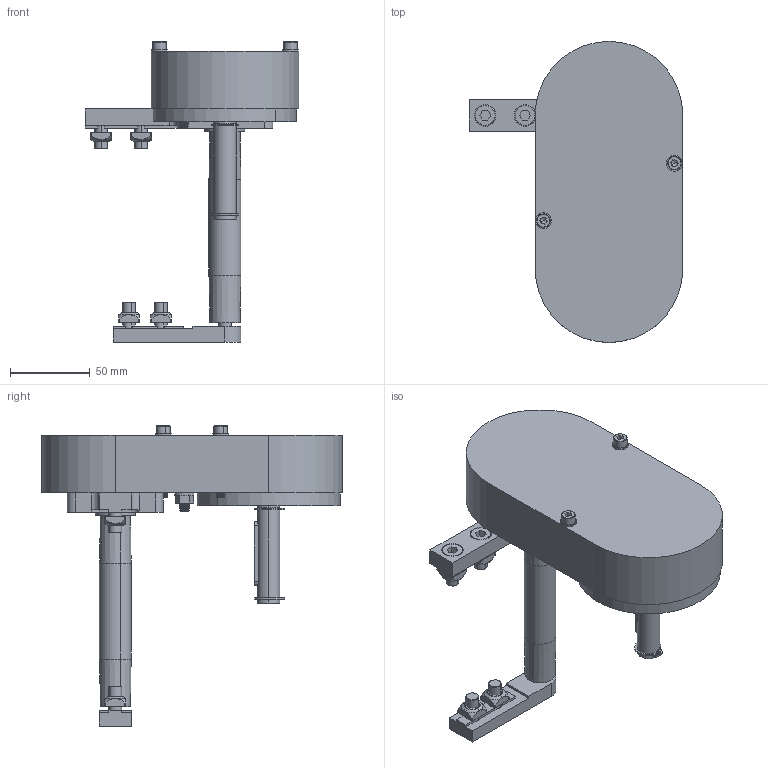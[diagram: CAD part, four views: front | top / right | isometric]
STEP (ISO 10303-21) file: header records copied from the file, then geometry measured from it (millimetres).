
FILE_DESCRIPTION (( 'STEP AP214' ), '1' );
FILE_NAME ('084.020.KT.30.100.STEP', '2018-02-05T13:57:16', ( '' ), ( '' ), 'SwSTEP 2.0', 'SolidWorks 2016', '' );
FILE_SCHEMA (( 'AUTOMOTIVE_DESIGN' ));
Length unit declared in the file: millimetre
Products named in the file (34): 084.802.016_084.802.016; 084.800.013; 084.800.014; CHIAVETTE_A 4x4x15 UNI 6604-69; 084.020.KT.30.100; 084.800.015; 084.800.008; 084.800.016; 084.302.000 DADI ALUSIC 13x13-1_084.302.004; 084.800.029; Hexagon Nut ISO - 4032 -  M6 - D - S_Hexagon Nut ISO - 4032 - M6 - D - S; 084.800.012; ISO 10642 - M5 x 12 --- 12S_ISO 10642 - M5 x 12 --- 12S; socket countersunk head screw_iso_ISO 10642 - M5 x 16 --- 16S; 084.800.003; 084.800.006; 084.301.000 VITI ALUSIC_084.301.003; CHIAVETTE_A 5x5x40 UNI 6604-69; 084.800.007; 084.800.002; 084.800.011; RONDELLE FASCIA LARGA UNI 6593_4.3x16UNI 6593; VITI TCEI UNI 5931_M4x12 UNI 5931; ISO 4762 M6 x 35 ---  24S_ISO 4762 M6 x 35 --- 24S; ISO 4762 M5 x 40 --- 22S_ISO 4762 M5 x 40 --- 22S; Washer  ISO 7091 - 6_Washer ISO 7091 - 6; circlip for shafts normal_din_Circlip DIN 471 - 8 x 0.8; 084.800.010_084.800.010; circlip for shafts normal_din_Circlip DIN 471 - 14 x 1; 084.800.001-1; 084.800.009; 084.800.005; 084.800.004; Washer ISO 7091 - 5_Washer ISO 7091 - 5
Assembly tree (55 placements, depth 2):
  084.020.KT.30.100
    084.800.013  x2
    084.800.016
    084.800.029
    084.800.004
    084.800.005
    084.800.010_084.800.010  x2
    084.800.009
    084.800.011
    084.800.002
    084.800.001-1
    084.802.016_084.802.016
    084.800.007
    084.800.012  x2
    084.800.008
    084.800.006
    084.800.014
    084.800.015
    084.800.003
    circlip for shafts normal_din_Circlip DIN 471 - 14 x 1  x2
    CHIAVETTE_A 4x4x15 UNI 6604-69  x2
    CHIAVETTE_A 5x5x40 UNI 6604-69
    circlip for shafts normal_din_Circlip DIN 471 - 8 x 0.8
    RONDELLE FASCIA LARGA UNI 6593_4.3x16UNI 6593  x2
    VITI TCEI UNI 5931_M4x12 UNI 5931  x2
    Washer ISO 7091 - 5_Washer ISO 7091 - 5  x2
    ISO 4762 M5 x 40 --- 22S_ISO 4762 M5 x 40 --- 22S  x2
    084.301.000 VITI ALUSIC_084.301.003  x4
    084.302.000 DADI ALUSIC 13x13-1_084.302.004  x4
    Washer  ISO 7091 - 6_Washer ISO 7091 - 6  x2
    Hexagon Nut ISO - 4032 -  M6 - D - S_Hexagon Nut ISO - 4032 - M6 - D - S
    ISO 4762 M6 x 35 ---  24S_ISO 4762 M6 x 35 --- 24S
    ISO 10642 - M5 x 12 --- 12S_ISO 10642 - M5 x 12 --- 12S  x4
    socket countersunk head screw_iso_ISO 10642 - M5 x 16 --- 16S  x4
Bounding box: 133.75 x 188.5 x 188 mm (x, y, z)
Volume: 349170.6 mm3; surface area: 230227.4 mm2
Topology: 135 solids, 136 shells, 3552 faces, 8952 edges, 5714 vertices
Faces by surface type: cylinder 1487, plane 1037, cone 870, torus 138, bspline 16, sphere 4
Entity records: 70322 total; most frequent: DIRECTION 12696, CARTESIAN_POINT 12081, ORIENTED_EDGE 11036, EDGE_CURVE 5518, AXIS2_PLACEMENT_3D 4959, VERTEX_POINT 3558, LINE 2778, VECTOR 2778
